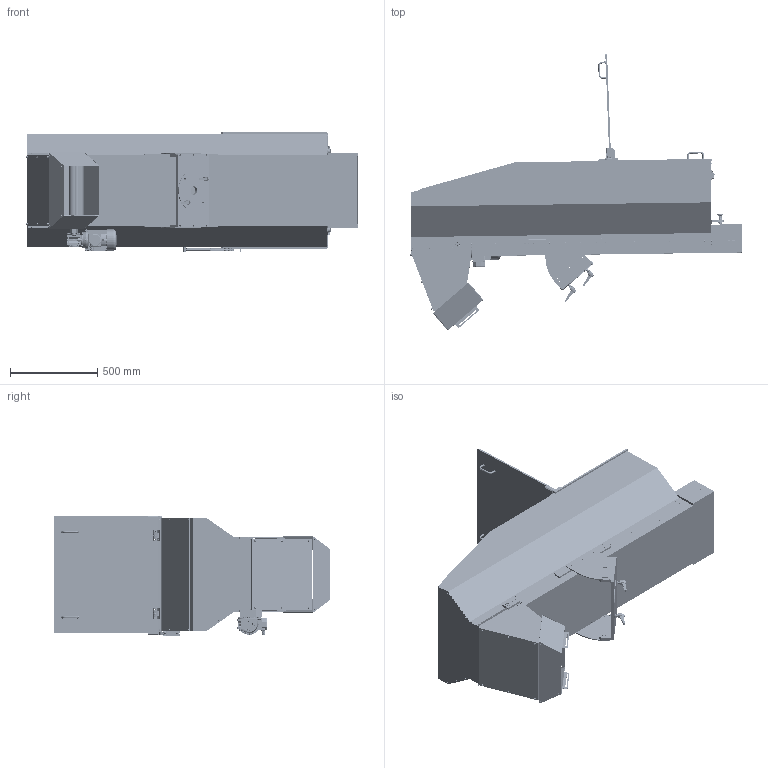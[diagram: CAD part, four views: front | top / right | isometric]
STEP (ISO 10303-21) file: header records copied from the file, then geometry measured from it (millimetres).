
FILE_DESCRIPTION (( 'STEP AP214' ), '1' );
FILE_NAME ('GM001463.00.step', '2026-07-06T12:07:39', ( '' ), ( '' ), 'SwSTEP 2.0', 'SolidWorks 2025', '' );
FILE_SCHEMA (( 'AUTOMOTIVE_DESIGN' ));
Length unit declared in the file: millimetre
Products named in the file (76): Copy of _Hinge with adjustable friction CFU.60 CH-6_1-142_1^Copy of CERNELESA_CFU-60-CH-6_427522-6_3_Copy of Superiori-1_3_Copy of Cerniere-3_3_Copy of Versione sportello CHIUSO_3_Copy of C~; Copy of ManElesa_GN425-10-88-CR_26501-149_1^Copy of ManElesa_GN425-10-88-CR_26501-3_3_Copy of Maniglie-1_3_Copy of Lexan sportello-1_3_Copy of Versione sportello APERTO_3_Copy of Copy of 20~; Copy of _Hinge with adjustable friction CFU.60 CH-6_1-158^Copy of CERNELESA_CFU-60-CH-6_427522-9_Copy of Cerniere-4_Copy of Versione sportello APERTO_3_Copy of Copy of 20-TRM-KIT-005-0-150li~; Copy of ManElesa_GN425-10-88-CR_26501-148_1^Copy of ManElesa_GN425-10-88-CR_26501-2_3_Copy of Maniglie-1_3_Copy of Lexan sportello-1_3_Copy of Versione sportello APERTO_3_Copy of Copy of 20~; Copy of 40-TRM-BLO-001-0_3^Copy of Blocchetto aggancio molla_3_Copy of Copy of 20-TRM-KIT-005-0-150litri_1_CM001896; Copy of ManElesa_GN425-10-88-CR_26501-150_1^Copy of ManElesa_GN425-10-88-CR_26501-3_3_Copy of Maniglie-1_3_Copy of Lexan sportello-1_3_Copy of Versione sportello APERTO_3_Copy of Copy of 20~; Copy of SpinaCil_6x20_3^Copy of Spine_3_Copy of Versione sportello CHIUSO_3_Copy of Copy of 20-TRM-KIT-005-0-150litri_1_CM001896; PD001824; Copy of Blocchetto aggancio molla_3^Copy of Copy of 20-TRM-KIT-005-0-150litri_1_CM001896; Copy of Molla a gas_3^Copy of Versione sportello CHIUSO_3_Copy of Copy of 20-TRM-KIT-005-0-150litri_1_CM001896; Copy of Cerniere-4^Copy of Versione sportello APERTO_3_Copy of Copy of 20-TRM-KIT-005-0-150litri_1_CM001896; Copy of Maniglie_3^Copy of Lexan sportello_3_Copy of Versione sportello CHIUSO_3_Copy of Copy of 20-TRM-KIT-005-0-150litri_1_CM001896; Copy of CERNELESA_CFU-60-CH-6_427522-6_3^Copy of Superiori-1_3_Copy of Cerniere-3_3_Copy of Versione sportello CHIUSO_3_Copy of Copy of 20-TRM-KIT-005-0-150litri_1_CM001896; Copy of CERNELESA_CFU-60-CH-6_427522-7_3^Copy of Superiori-1_3_Copy of Cerniere-3_3_Copy of Versione sportello CHIUSO_3_Copy of Copy of 20-TRM-KIT-005-0-150litri_1_CM001896; Copy of SpinaCil_6x20-162^Copy of Spine-1_3_Copy of Versione sportello APERTO_3_Copy of Copy of 20-TRM-KIT-005-0-150litri_1_CM001896; Copy of 40-TRM-LEX-002A-0_1^Copy of Lexan sportello_3_Copy of Versione sportello CHIUSO_3_Copy of Copy of 20-TRM-KIT-005-0-150litri_1_CM001896; Copy of _Hinge with adjustable friction CFU.60 CH-60_2-156^Copy of CERNELESA_CFU-60-CH-6_427522-9_Copy of Cerniere-4_Copy of Versione sportello APERTO_3_Copy of Copy of 20-TRM-KIT-005-0-150l~; Copy of Maniglie-1_3^Copy of Lexan sportello-1_3_Copy of Versione sportello APERTO_3_Copy of Copy of 20-TRM-KIT-005-0-150litri_1_CM001896; Copy of ManElesa_GN425-10-88-CR_26501-136_2^Copy of ManElesa_GN425-10-88-CR_26501_3_Copy of Maniglie_3_Copy of Lexan sportello_3_Copy of Versione sportello CHIUSO_3_Copy of Copy of 20-TRM-K~; Copy of Spine_3^Copy of Versione sportello CHIUSO_3_Copy of Copy of 20-TRM-KIT-005-0-150litri_1_CM001896; Copy of Cerniere-3_3^Copy of Versione sportello CHIUSO_3_Copy of Copy of 20-TRM-KIT-005-0-150litri_1_CM001896; Copy of _Hinge with adjustable friction CFU.60 CH-60_2-140_1^Copy of CERNELESA_CFU-60-CH-6_427522-6_3_Copy of Superiori-1_3_Copy of Cerniere-3_3_Copy of Versione sportello CHIUSO_3_Copy of ~; Copy of SpinaCil_6x25_3^Copy of Spina_3_Copy of Copy of 20-TRM-KIT-005-0-150litri_1_CM001896; Copy of ManElesa_GN425-10-88-CR_26501-2_3^Copy of Maniglie-1_3_Copy of Lexan sportello-1_3_Copy of Versione sportello APERTO_3_Copy of Copy of 20-TRM-KIT-005-0-150litri_1_CM001896; Copy of ManElesa_GN425-10-88-CR_26501-134_2^Copy of ManElesa_GN425-10-88-CR_26501_3_Copy of Maniglie_3_Copy of Lexan sportello_3_Copy of Versione sportello CHIUSO_3_Copy of Copy of 20-TRM-K~; Copy of Copy of 20-TRM-KIT-005-0-150litri_1^CM001896; PD001825; Copy of _Hinge with adjustable friction CFU.60 CH-60_2-153^Copy of CERNELESA_CFU-60-CH-6_427522-8_Copy of Cerniere-4_Copy of Versione sportello APERTO_3_Copy of Copy of 20-TRM-KIT-005-0-150~; Copy of ManElesa_GN425-10-88-CR_26501-3_3^Copy of Maniglie-1_3_Copy of Lexan sportello-1_3_Copy of Versione sportello APERTO_3_Copy of Copy of 20-TRM-KIT-005-0-150litri_1_CM001896; CM001896; Copy of ManElesa_GN425-10-88-CR_26501_3^Copy of Maniglie_3_Copy of Lexan sportello_3_Copy of Versione sportello CHIUSO_3_Copy of Copy of 20-TRM-KIT-005-0-150litri_1_CM001896; Copy of 40-TRM-BLO-002D-0-159^Copy of Blocco su sportello-1_3_Copy of Versione sportello APERTO_3_Copy of Copy of 20-TRM-KIT-005-0-150litri_1_CM001896; Copy of _Hinge with adjustable friction CFU.60 CH-6_1-145_1^Copy of CERNELESA_CFU-60-CH-6_427522-7_3_Copy of Superiori-1_3_Copy of Cerniere-3_3_Copy of Versione sportello CHIUSO_3_Copy of Co~; Copy of ManElesa_GN425-10-88-CR_26501-139^Copy of ManElesa_GN425-10-88-CR_26501-1_3_Copy of Maniglie_3_Copy of Lexan sportello_3_Copy of Versione sportello CHIUSO_3_Copy of Copy of 20-TRM-K~; Copy of Versione sportello CHIUSO_3^Copy of Copy of 20-TRM-KIT-005-0-150litri_1_CM001896; Copy of ManElesa_GN425-10-88-CR_26501-138^Copy of ManElesa_GN425-10-88-CR_26501-1_3_Copy of Maniglie_3_Copy of Lexan sportello_3_Copy of Versione sportello CHIUSO_3_Copy of Copy of 20-TRM-K~; Copy of _Hinge with adjustable friction CFU.60 CH-60_2-143_1^Copy of CERNELESA_CFU-60-CH-6_427522-7_3_Copy of Superiori-1_3_Copy of Cerniere-3_3_Copy of Versione sportello CHIUSO_3_Copy of C~; Copy of _Hinge with adjustable friction CFU.60 CH-6_1-155^Copy of CERNELESA_CFU-60-CH-6_427522-8_Copy of Cerniere-4_Copy of Versione sportello APERTO_3_Copy of Copy of 20-TRM-KIT-005-0-150l~; Copy of _Hinge with adjustable friction CFU.60 CH-60_3-154^Copy of CERNELESA_CFU-60-CH-6_427522-8_Copy of Cerniere-4_Copy of Versione sportello APERTO_3_Copy of Copy of 20-TRM-KIT-005-0-150~; Copy of MollaGasStabilus_082511_c100_f200_pos170_est4.5_3^Copy of Molla a gas_3_Copy of Versione sportello CHIUSO_3_Copy of Copy of 20-TRM-KIT-005-0-150litri_1_CM001896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
Assembly tree (77 placements, depth 8):
  GM001463.00
    CM001896
      Copia di CM001896^CM001896_Default<A macchina>
      Copia di Copia di Supporto 150l^CM001896_Default<A macchina>
      Copy of Copy of 20-TRM-KIT-005-0-150litri_1^CM001896
        Copy of Blocchetto aggancio molla_3^Copy of Copy of 20-TRM-KIT-005-0-150litri_1_CM001896
          Copy of 40-TRM-BLO-001-0_3^Copy of Blocchetto aggancio molla_3_Copy of Copy of 20-TRM-KIT-005-0-150litri_1_CM001896
        Copy of Spina_3^Copy of Copy of 20-TRM-KIT-005-0-150litri_1_CM001896
          Copy of SpinaCil_6x25_3^Copy of Spina_3_Copy of Copy of 20-TRM-KIT-005-0-150litri_1_CM001896
        Copy of Versione sportello CHIUSO_3^Copy of Copy of 20-TRM-KIT-005-0-150litri_1_CM001896
          Copy of Molla a gas_3^Copy of Versione sportello CHIUSO_3_Copy of Copy of 20-TRM-KIT-005-0-150litri_1_CM001896
            Copy of MollaGasStabilus_082511_c100_f200_pos170_est4.5_3^Copy of Molla a gas_3_Copy of Versione sportello CHIUSO_3_Copy of Copy of 20-TRM-KIT-005-0-150litri_1_CM001896
              Copy of MollaGasStabilus_082511_c100_f200_pos170_est4.5-132^Copy of MollaGasStabilus_082511_c100_f200_pos170_est4.5_3_Copy of Molla a gas_3_Copy of Versione sportello CHIUSO_3_Copy of Copy ~
              Copy of MollaGasStabilus_082511_c100_f200_pos170_est4.5-133^Copy of MollaGasStabilus_082511_c100_f200_pos170_est4.5_3_Copy of Molla a gas_3_Copy of Versione sportello CHIUSO_3_Copy of Copy ~
          Copy of Spine_3^Copy of Versione sportello CHIUSO_3_Copy of Copy of 20-TRM-KIT-005-0-150litri_1_CM001896
            Copy of SpinaCil_6x20_3^Copy of Spine_3_Copy of Versione sportello CHIUSO_3_Copy of Copy of 20-TRM-KIT-005-0-150litri_1_CM001896
          Copy of Lexan sportello_3^Copy of Versione sportello CHIUSO_3_Copy of Copy of 20-TRM-KIT-005-0-150litri_1_CM001896
            Copy of Maniglie_3^Copy of Lexan sportello_3_Copy of Versione sportello CHIUSO_3_Copy of Copy of 20-TRM-KIT-005-0-150litri_1_CM001896
              Copy of ManElesa_GN425-10-88-CR_26501_3^Copy of Maniglie_3_Copy of Lexan sportello_3_Copy of Versione sportello CHIUSO_3_Copy of Copy of 20-TRM-KIT-005-0-150litri_1_CM001896
                Copy of ManElesa_GN425-10-88-CR_26501-134_2^Copy of ManElesa_GN425-10-88-CR_26501_3_Copy of Maniglie_3_Copy of Lexan sportello_3_Copy of Versione sportello CHIUSO_3_Copy of Copy of 20-TRM-K~
                Copy of ManElesa_GN425-10-88-CR_26501-135_2^Copy of ManElesa_GN425-10-88-CR_26501_3_Copy of Maniglie_3_Copy of Lexan sportello_3_Copy of Versione sportello CHIUSO_3_Copy of Copy of 20-TRM-K~
                Copy of ManElesa_GN425-10-88-CR_26501-136_2^Copy of ManElesa_GN425-10-88-CR_26501_3_Copy of Maniglie_3_Copy of Lexan sportello_3_Copy of Versione sportello CHIUSO_3_Copy of Copy of 20-TRM-K~
              Copy of ManElesa_GN425-10-88-CR_26501-1_3^Copy of Maniglie_3_Copy of Lexan sportello_3_Copy of Versione sportello CHIUSO_3_Copy of Copy of 20-TRM-KIT-005-0-150litri_1_CM001896
                Copy of ManElesa_GN425-10-88-CR_26501-137_2^Copy of ManElesa_GN425-10-88-CR_26501-1_3_Copy of Maniglie_3_Copy of Lexan sportello_3_Copy of Versione sportello CHIUSO_3_Copy of Copy of 20-TRM~
                Copy of ManElesa_GN425-10-88-CR_26501-138^Copy of ManElesa_GN425-10-88-CR_26501-1_3_Copy of Maniglie_3_Copy of Lexan sportello_3_Copy of Versione sportello CHIUSO_3_Copy of Copy of 20-TRM-K~
                Copy of ManElesa_GN425-10-88-CR_26501-139^Copy of ManElesa_GN425-10-88-CR_26501-1_3_Copy of Maniglie_3_Copy of Lexan sportello_3_Copy of Versione sportello CHIUSO_3_Copy of Copy of 20-TRM-K~
            Copy of 40-TRM-LEX-002A-0_1^Copy of Lexan sportello_3_Copy of Versione sportello CHIUSO_3_Copy of Copy of 20-TRM-KIT-005-0-150litri_1_CM001896
          Copy of Blocco su sportello_3^Copy of Versione sportello CHIUSO_3_Copy of Copy of 20-TRM-KIT-005-0-150litri_1_CM001896
            Copy of 40-TRM-BLO-002D-0_3^Copy of Blocco su sportello_3_Copy of Versione sportello CHIUSO_3_Copy of Copy of 20-TRM-KIT-005-0-150litri_1_CM001896
          Copy of Cerniere-3_3^Copy of Versione sportello CHIUSO_3_Copy of Copy of 20-TRM-KIT-005-0-150litri_1_CM001896
            Copy of Superiori-1_3^Copy of Cerniere-3_3_Copy of Versione sportello CHIUSO_3_Copy of Copy of 20-TRM-KIT-005-0-150litri_1_CM001896
              Copy of CERNELESA_CFU-60-CH-6_427522-6_3^Copy of Superiori-1_3_Copy of Cerniere-3_3_Copy of Versione sportello CHIUSO_3_Copy of Copy of 20-TRM-KIT-005-0-150litri_1_CM001896
                Copy of _Hinge with adjustable friction CFU.60 CH-60_2-140_1^Copy of CERNELESA_CFU-60-CH-6_427522-6_3_Copy of Superiori-1_3_Copy of Cerniere-3_3_Copy of Versione sportello CHIUSO_3_Copy of ~
                Copy of _Hinge with adjustable friction CFU.60 CH-60_3-141_1^Copy of CERNELESA_CFU-60-CH-6_427522-6_3_Copy of Superiori-1_3_Copy of Cerniere-3_3_Copy of Versione sportello CHIUSO_3_Copy of ~
                Copy of _Hinge with adjustable friction CFU.60 CH-6_1-142_1^Copy of CERNELESA_CFU-60-CH-6_427522-6_3_Copy of Superiori-1_3_Copy of Cerniere-3_3_Copy of Versione sportello CHIUSO_3_Copy of C~
              Copy of CERNELESA_CFU-60-CH-6_427522-7_3^Copy of Superiori-1_3_Copy of Cerniere-3_3_Copy of Versione sportello CHIUSO_3_Copy of Copy of 20-TRM-KIT-005-0-150litri_1_CM001896
                Copy of _Hinge with adjustable friction CFU.60 CH-60_2-143_1^Copy of CERNELESA_CFU-60-CH-6_427522-7_3_Copy of Superiori-1_3_Copy of Cerniere-3_3_Copy of Versione sportello CHIUSO_3_Copy of C~
                Copy of _Hinge with adjustable friction CFU.60 CH-60_3-144_1^Copy of CERNELESA_CFU-60-CH-6_427522-7_3_Copy of Superiori-1_3_Copy of Cerniere-3_3_Copy of Versione sportello CHIUSO_3_Copy of C~
                Copy of _Hinge with adjustable friction CFU.60 CH-6_1-145_1^Copy of CERNELESA_CFU-60-CH-6_427522-7_3_Copy of Superiori-1_3_Copy of Cerniere-3_3_Copy of Versione sportello CHIUSO_3_Copy of Co~
          Copy of Piatto irrigidimento_3^Copy of Versione sportello CHIUSO_3_Copy of Copy of 20-TRM-KIT-005-0-150litri_1_CM001896
            Copy of 40-TRM-PIA-009-0_1^Copy of Piatto irrigidimento_3_Copy of Versione sportello CHIUSO_3_Copy of Copy of 20-TRM-KIT-005-0-150litri_1_CM001896
        Copy of Versione sportello APERTO_3^Copy of Copy of 20-TRM-KIT-005-0-150litri_1_CM001896
          Copy of Lexan sportello-1_3^Copy of Versione sportello APERTO_3_Copy of Copy of 20-TRM-KIT-005-0-150litri_1_CM001896
            Copy of Maniglie-1_3^Copy of Lexan sportello-1_3_Copy of Versione sportello APERTO_3_Copy of Copy of 20-TRM-KIT-005-0-150litri_1_CM001896
              Copy of ManElesa_GN425-10-88-CR_26501-2_3^Copy of Maniglie-1_3_Copy of Lexan sportello-1_3_Copy of Versione sportello APERTO_3_Copy of Copy of 20-TRM-KIT-005-0-150litri_1_CM001896
                Copy of ManElesa_GN425-10-88-CR_26501-146_1^Copy of ManElesa_GN425-10-88-CR_26501-2_3_Copy of Maniglie-1_3_Copy of Lexan sportello-1_3_Copy of Versione sportello APERTO_3_Copy of Copy of 20~
                Copy of ManElesa_GN425-10-88-CR_26501-147_1^Copy of ManElesa_GN425-10-88-CR_26501-2_3_Copy of Maniglie-1_3_Copy of Lexan sportello-1_3_Copy of Versione sportello APERTO_3_Copy of Copy of 20~
                Copy of ManElesa_GN425-10-88-CR_26501-148_1^Copy of ManElesa_GN425-10-88-CR_26501-2_3_Copy of Maniglie-1_3_Copy of Lexan sportello-1_3_Copy of Versione sportello APERTO_3_Copy of Copy of 20~
              Copy of ManElesa_GN425-10-88-CR_26501-3_3^Copy of Maniglie-1_3_Copy of Lexan sportello-1_3_Copy of Versione sportello APERTO_3_Copy of Copy of 20-TRM-KIT-005-0-150litri_1_CM001896
                Copy of ManElesa_GN425-10-88-CR_26501-149_1^Copy of ManElesa_GN425-10-88-CR_26501-3_3_Copy of Maniglie-1_3_Copy of Lexan sportello-1_3_Copy of Versione sportello APERTO_3_Copy of Copy of 20~
                Copy of ManElesa_GN425-10-88-CR_26501-150_1^Copy of ManElesa_GN425-10-88-CR_26501-3_3_Copy of Maniglie-1_3_Copy of Lexan sportello-1_3_Copy of Versione sportello APERTO_3_Copy of Copy of 20~
                Copy of ManElesa_GN425-10-88-CR_26501-151^Copy of ManElesa_GN425-10-88-CR_26501-3_3_Copy of Maniglie-1_3_Copy of Lexan sportello-1_3_Copy of Versione sportello APERTO_3_Copy of Copy of 20-T~
            Copy of 40-TRM-LEX-002A-0-152^Copy of Lexan sportello-1_3_Copy of Versione sportello APERTO_3_Copy of Copy of 20-TRM-KIT-005-0-150litri_1_CM001896
          Copy of Cerniere-4^Copy of Versione sportello APERTO_3_Copy of Copy of 20-TRM-KIT-005-0-150litri_1_CM001896
            Copy of CERNELESA_CFU-60-CH-6_427522-8^Copy of Cerniere-4_Copy of Versione sportello APERTO_3_Copy of Copy of 20-TRM-KIT-005-0-150litri_1_CM001896
              Copy of _Hinge with adjustable friction CFU.60 CH-60_2-153^Copy of CERNELESA_CFU-60-CH-6_427522-8_Copy of Cerniere-4_Copy of Versione sportello APERTO_3_Copy of Copy of 20-TRM-KIT-005-0-150~
              Copy of _Hinge with adjustable friction CFU.60 CH-60_3-154^Copy of CERNELESA_CFU-60-CH-6_427522-8_Copy of Cerniere-4_Copy of Versione sportello APERTO_3_Copy of Copy of 20-TRM-KIT-005-0-150~
              Copy of _Hinge with adjustable friction CFU.60 CH-6_1-155^Copy of CERNELESA_CFU-60-CH-6_427522-8_Copy of Cerniere-4_Copy of Versione sportello APERTO_3_Copy of Copy of 20-TRM-KIT-005-0-150l~
            Copy of CERNELESA_CFU-60-CH-6_427522-9^Copy of Cerniere-4_Copy of Versione sportello APERTO_3_Copy of Copy of 20-TRM-KIT-005-0-150litri_1_CM001896
              Copy of _Hinge with adjustable friction CFU.60 CH-60_2-156^Copy of CERNELESA_CFU-60-CH-6_427522-9_Copy of Cerniere-4_Copy of Versione sportello APERTO_3_Copy of Copy of 20-TRM-KIT-005-0-150l~
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Bounding box: 1905.38 x 1588.7 x 686.5 mm (x, y, z)
Volume: 40816944 mm3; surface area: 21384412.9 mm2
Topology: 283 solids, 296 shells, 8993 faces, 23244 edges, 15014 vertices
Faces by surface type: plane 3956, cylinder 3757, cone 934, torus 200, sphere 120, bspline 26
Entity records: 295836 total; most frequent: CARTESIAN_POINT 70459, DIRECTION 46721, ORIENTED_EDGE 45636, EDGE_CURVE 22820, AXIS2_PLACEMENT_3D 17452, VERTEX_POINT 14818, LINE 11817, VECTOR 11817
